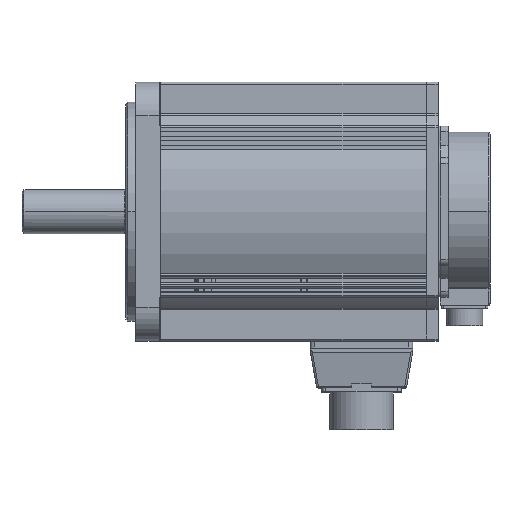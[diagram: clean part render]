
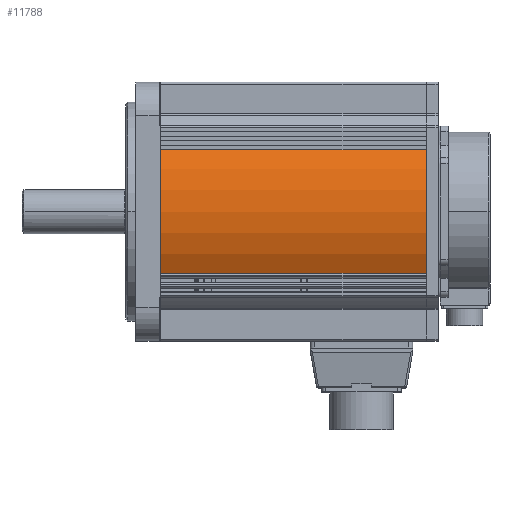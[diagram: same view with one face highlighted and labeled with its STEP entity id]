
A CAD part, top view. The second image highlights one B-rep face of the part: STEP entity #11788.
In plain terms, the highlighted cylindrical face has radius 65 mm (diameter 130 mm), a partial arc.
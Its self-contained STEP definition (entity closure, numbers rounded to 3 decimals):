
#11762 = VERTEX_POINT('',#11763);
#11763 = CARTESIAN_POINT('',(69.5,-31.,57.131));
#11771 = VERTEX_POINT('',#11772);
#11772 = CARTESIAN_POINT('',(203.,-31.,57.131));
#11778 = EDGE_CURVE('',#11771,#11762,#11779,.T.);
#11779 = LINE('',#11780,#11781);
#11780 = CARTESIAN_POINT('',(203.,-31.,57.131));
#11781 = VECTOR('',#11782,1.);
#11782 = DIRECTION('',(-1.,0.,0.));
#11788 = ADVANCED_FACE('',(#11789),#11816,.T.);
#11789 = FACE_BOUND('',#11790,.T.);
#11790 = EDGE_LOOP('',(#11791,#11800,#11801,#11810));
#11791 = ORIENTED_EDGE('',*,*,#11792,.T.);
#11792 = EDGE_CURVE('',#11793,#11762,#11795,.T.);
#11793 = VERTEX_POINT('',#11794);
#11794 = CARTESIAN_POINT('',(69.5,31.,57.131));
#11795 = CIRCLE('',#11796,65.);
#11796 = AXIS2_PLACEMENT_3D('',#11797,#11798,#11799);
#11797 = CARTESIAN_POINT('',(69.5,0.,0.)
  );
#11798 = DIRECTION('',(1.,0.,0.));
#11799 = DIRECTION('',(0.,1.,0.));
#11800 = ORIENTED_EDGE('',*,*,#11778,.F.);
#11801 = ORIENTED_EDGE('',*,*,#11802,.F.);
#11802 = EDGE_CURVE('',#11803,#11771,#11805,.T.);
#11803 = VERTEX_POINT('',#11804);
#11804 = CARTESIAN_POINT('',(203.,31.,57.131));
#11805 = CIRCLE('',#11806,65.);
#11806 = AXIS2_PLACEMENT_3D('',#11807,#11808,#11809);
#11807 = CARTESIAN_POINT('',(203.,0.,
    0.));
#11808 = DIRECTION('',(1.,0.,0.));
#11809 = DIRECTION('',(0.,1.,0.));
#11810 = ORIENTED_EDGE('',*,*,#11811,.T.);
#11811 = EDGE_CURVE('',#11803,#11793,#11812,.T.);
#11812 = LINE('',#11813,#11814);
#11813 = CARTESIAN_POINT('',(203.,31.,57.131));
#11814 = VECTOR('',#11815,1.);
#11815 = DIRECTION('',(-1.,0.,0.));
#11816 = CYLINDRICAL_SURFACE('',#11817,65.);
#11817 = AXIS2_PLACEMENT_3D('',#11818,#11819,#11820);
#11818 = CARTESIAN_POINT('',(203.,0.,
    0.));
#11819 = DIRECTION('',(-1.,0.,0.));
#11820 = DIRECTION('',(0.,-1.,0.));
